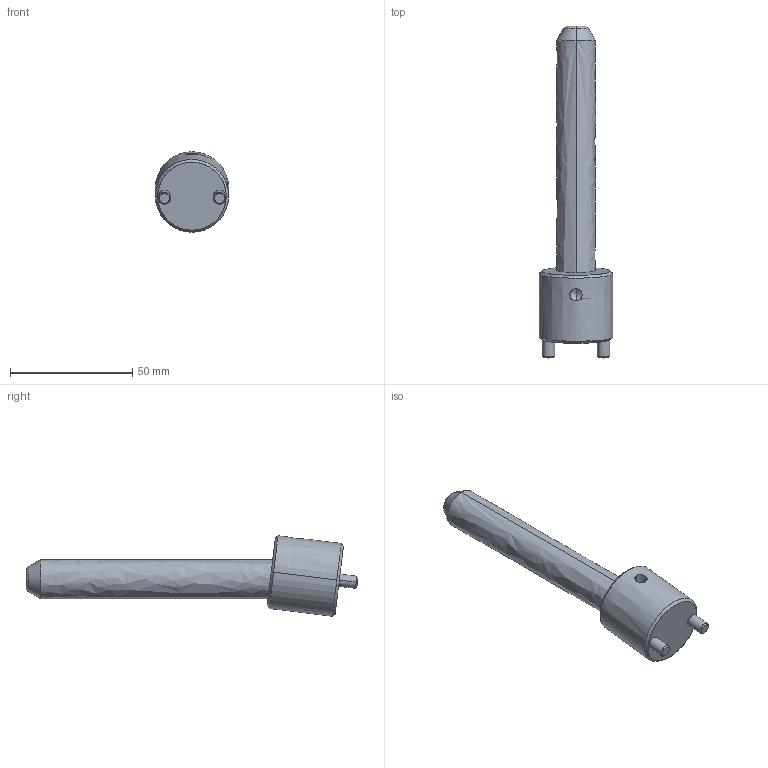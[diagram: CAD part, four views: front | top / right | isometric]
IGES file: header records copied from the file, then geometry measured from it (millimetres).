
Start section: START RECORD GO HERE.
Global section: file name: CI0716100.igs; native system: DASSAULT SYSTEMES CATIA V5 R20 - www.3ds.com; preprocessor: CATIA Version 5 Release 20 ; author: r.borello; organization: CFTORINO; date: 20190624.090625; units: millimetre
Bounding box: 30 x 135.84 x 32.95 mm (x, y, z)
Surface area: 11983.5 mm2 (no closed solid volume)
Topology: 0 solids, 0 shells, 39 faces, 162 edges, 160 vertices
Faces by surface type: revolution 32, plane 7
